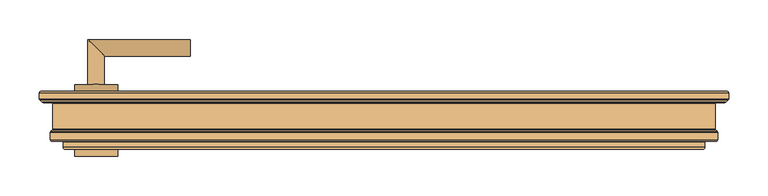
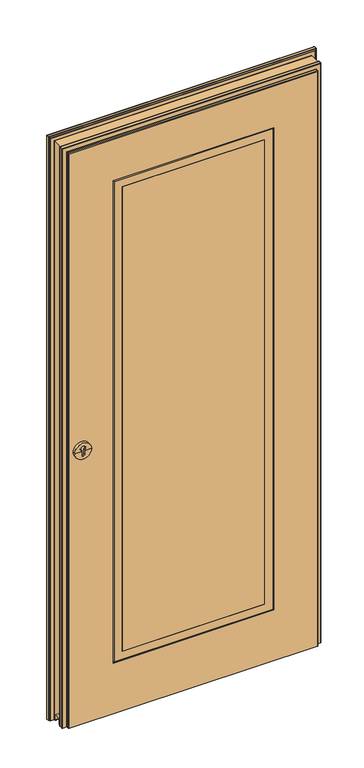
"""IFC4 building model written with IfcOpenShell, lengths in millimetres: door geometry, Peneder_HIGHLINEflat zero_1-flügelig_V2019 : Zargentyp - 01 - Eck 60 DN."""

from ifc_helpers import new_model, si_unit, frame, origin, place, context, project, spatial, polyline, circle_curve, ellipse_curve, outline, extrude, faceted_brep, source, transform, mapped, element, save
from ifc_brep_helpers import plane_surface, cylinder_surface, revolved_surface, advanced_brep


def door_6e8d6682(model_context):
    return source(origin(), model_context, "Body", "SolidModel", [
        advanced_brep(
        [(-337.5, 56.0, 958.0), (-392.5, 56.0, 958.0), (-392.5, 65.0, 958.0), (-337.5, 65.0, 958.0), (-360.0, 56.0, 958.0), (-360.0, 56.0, 945.8645067), (-370.0, 56.0, 945.8645067), (-370.0, 56.0, 958.0), (-370.0, 56.0, 960.8645067), (-360.0, 56.0, 960.8645067), (-365.0, 65.0, 958.0), (-370.0, 62.0, 945.8645067), (-360.0, 62.0, 945.8645067), (-360.0, 62.0, 960.8645067), (-370.0, 62.0, 960.8645067)],
        [
            (0, 1, circle_curve(frame((-365.0, 56.0, 958.0), z_axis=(0.0, 1.0, 0.0), x_axis=(-1.0, 0.0, 0.0)), 27.5)),
            (1, 2),
            (2, 3, circle_curve(frame((-365.0, 65.0, 958.0), z_axis=(0.0, -1.0, 0.0), x_axis=(-1.0, 0.0, 0.0)), 27.5)),
            (3, 0),
            (1, 0, circle_curve(frame((-365.0, 56.0, 958.0), z_axis=(0.0, 1.0, 0.0), x_axis=(-1.0, 0.0, 0.0)), 27.5)),
            (3, 2, circle_curve(frame((-365.0, 65.0, 958.0), z_axis=(0.0, -1.0, 0.0), x_axis=(-1.0, 0.0, 0.0)), 27.5)),
            (0, 4),
            (4, 5),
            (5, 6, circle_curve(frame((-365.0, 56.0, 945.8645067), z_axis=(0.0, 1.0, 0.0), x_axis=(-1.0, 0.0, 0.0)), 5.0)),
            (6, 7),
            (7, 1),
            (7, 8),
            (8, 9, circle_curve(frame((-365.0, 56.0, 967.690169), z_axis=(0.0, 1.0, 0.0), x_axis=(-1.0, 0.0, 0.0)), 8.4610677)),
            (9, 4),
            (2, 10),
            (10, 3),
            (11, 12, circle_curve(frame((-365.0, 62.0, 945.8645067), z_axis=(0.0, -1.0, 0.0), x_axis=(-1.0, 0.0, 0.0)), 5.0)),
            (12, 13),
            (13, 14, circle_curve(frame((-365.0, 62.0, 967.690169), z_axis=(0.0, -1.0, 0.0), x_axis=(-1.0, 0.0, 0.0)), 8.4610677)),
            (14, 11),
            (11, 6),
            (5, 12),
            (9, 13),
            (8, 14),
        ],
        [
            cylinder_surface(frame((-365.0, 72.1832023, 958.0), z_axis=(0.0, -1.0, 0.0), x_axis=(-1.0, 0.0, 0.0)), 27.5),
            plane_surface(frame((-365.0, 56.0, 958.0), z_axis=(0.0, -1.0, 0.0), x_axis=(-1.0, 0.0, 0.0))),
            plane_surface(frame((-365.0, 65.0, 958.0), z_axis=(0.0, 1.0, 0.0), x_axis=(-1.0, 0.0, 0.0))),
            plane_surface(frame((-370.0, 62.0, 960.8645067), z_axis=(0.0, -1.0, 0.0), x_axis=(0.0, 0.0, 1.0))),
            revolved_surface(polyline([(-370.0, 62.0, 945.8645067), (-370.0, 56.0, 945.8645067)]), (-365.0, 52.0, 945.8645067), (0.0, 1.0, 0.0)),
            plane_surface(frame((-360.0, 62.0, 960.8645067), z_axis=(-1.0, 0.0, 0.0), x_axis=(0.0, -1.0, 0.0))),
            revolved_surface(polyline([(-373.4610677, 62.0, 967.690169), (-373.4610677, 56.0, 967.690169)]), (-365.0, 52.0, 967.690169), (0.0, 1.0, 0.0)),
            plane_surface(frame((-370.0, 62.0, 945.8645067), z_axis=(1.0, 0.0, 0.0), x_axis=(0.0, -1.0, 0.0))),
        ],
        [
            (0, [[1, 2, 3, 4]]),
            (0, [[-2, 5, -4, 6]]),
            (1, [[-1, 7, 8, 9, 10, 11]]),
            (1, [[-5, -11, 12, 13, 14, -7]]),
            (2, [[-3, 15, 16]]),
            (2, [[-6, -16, -15]]),
            (3, [[17, 18, 19, 20]]),
            (4, [[-17, 21, -9, 22]]),
            (5, [[-18, -22, -8, -14, 23]]),
            (6, [[-19, -23, -13, 24]]),
            (7, [[-20, -24, -12, -10, -21]]),
        ],
    ),
        advanced_brep(
        [(-375.5, 147.0, 1050.0), (-354.5, 147.0, 1050.0), (-354.5, 183.0, 1050.0), (-375.5, 204.0, 1050.0), (-245.5, 183.0, 1050.0), (-245.5, 204.0, 1050.0)],
        [
            (0, 1, circle_curve(frame((-365.0, 147.0, 1050.0), z_axis=(0.0, -1.0, 0.0), x_axis=(1.0, 0.0, 0.0)), 10.5)),
            (1, 0, circle_curve(frame((-365.0, 147.0, 1050.0), z_axis=(0.0, -1.0, 0.0), x_axis=(1.0, 0.0, 0.0)), 10.5)),
            (1, 2),
            (2, 3, ellipse_curve(frame((-365.0, 193.5, 1050.0), z_axis=(-0.7071067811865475, -0.7071067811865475, 0.0), x_axis=(0.7071067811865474, -0.7071067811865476, 0.0)), 14.8492424, 10.5)),
            (3, 0),
            (3, 2, ellipse_curve(frame((-365.0, 193.5, 1050.0), z_axis=(-0.7071067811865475, -0.7071067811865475, 0.0), x_axis=(0.7071067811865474, -0.7071067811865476, 0.0)), 14.8492424, 10.5)),
            (2, 4),
            (4, 5, circle_curve(frame((-245.5, 193.5, 1050.0), z_axis=(-1.0, 0.0, 0.0), x_axis=(0.0, -1.0, 0.0)), 10.5)),
            (5, 3),
            (5, 4, circle_curve(frame((-245.5, 193.5, 1050.0), z_axis=(-1.0, 0.0, 0.0), x_axis=(0.0, -1.0, 0.0)), 10.5)),
        ],
        [
            plane_surface(frame((-365.0, 147.0, 1050.0), z_axis=(0.0, -1.0, 0.0), x_axis=(0.0, 0.0, 1.0))),
            cylinder_surface(frame((-365.0, 147.0, 1050.0), z_axis=(0.0, -1.0, 0.0), x_axis=(1.0, 0.0, 0.0)), 10.5),
            cylinder_surface(frame((-365.0, 193.5, 1050.0), z_axis=(-1.0, 0.0, 0.0), x_axis=(0.0, -1.0, 0.0)), 10.5),
            plane_surface(frame((-245.5, 193.5, 1050.0), z_axis=(1.0, 0.0, 0.0), x_axis=(0.0, 0.0, 1.0))),
        ],
        [
            (0, [[1, 2]]),
            (1, [[3, 4, 5, -2]]),
            (1, [[-5, 6, -3, -1]]),
            (2, [[7, 8, 9, -4]]),
            (2, [[-9, 10, -7, -6]]),
            (3, [[-8, -10]]),
        ],
    ),
        advanced_brep(
        [(-337.5, 147.0, 1050.0), (-337.5, 138.0, 1050.0), (-392.5, 138.0, 1050.0), (-392.5, 147.0, 1050.0), (-365.0, 147.0, 1050.0), (-365.0, 138.0, 1050.0)],
        [
            (0, 1),
            (1, 2, circle_curve(frame((-365.0, 138.0, 1050.0), z_axis=(0.0, 1.0, 0.0), x_axis=(-1.0, 0.0, 0.0)), 27.5)),
            (2, 3),
            (3, 0, circle_curve(frame((-365.0, 147.0, 1050.0), z_axis=(0.0, -1.0, 0.0), x_axis=(-1.0, 0.0, 0.0)), 27.5)),
            (2, 1, circle_curve(frame((-365.0, 138.0, 1050.0), z_axis=(0.0, 1.0, 0.0), x_axis=(-1.0, 0.0, 0.0)), 27.5)),
            (0, 3, circle_curve(frame((-365.0, 147.0, 1050.0), z_axis=(0.0, -1.0, 0.0), x_axis=(-1.0, 0.0, 0.0)), 27.5)),
            (4, 0),
            (3, 4),
            (1, 5),
            (5, 2),
        ],
        [
            cylinder_surface(frame((-365.0, 120.2392865, 1050.0), z_axis=(0.0, 1.0, 0.0), x_axis=(-1.0, 0.0, 0.0)), 27.5),
            plane_surface(frame((-365.0, 147.0, 1050.0), z_axis=(0.0, 1.0, 0.0), x_axis=(-1.0, 0.0, 0.0))),
            plane_surface(frame((-365.0, 138.0, 1050.0), z_axis=(0.0, -1.0, 0.0), x_axis=(-1.0, 0.0, 0.0))),
        ],
        [
            (0, [[1, 2, 3, 4]]),
            (0, [[-3, 5, -1, 6]]),
            (1, [[7, -4, 8]]),
            (1, [[-8, -6, -7]]),
            (2, [[9, 10, -2]]),
            (2, [[-10, -9, -5]]),
        ],
    ),
        advanced_brep(
        [(-337.5, 147.0, 958.0), (-337.5, 138.0, 958.0), (-392.5, 138.0, 958.0), (-392.5, 147.0, 958.0), (-370.0, 147.0, 958.0), (-370.0, 147.0, 945.8645067), (-360.0, 147.0, 945.8645067), (-360.0, 147.0, 958.0), (-360.0, 147.0, 960.8645067), (-370.0, 147.0, 960.8645067), (-365.0, 138.0, 958.0), (-370.0, 141.0, 945.8645067), (-370.0, 141.0, 960.8645067), (-360.0, 141.0, 960.8645067), (-360.0, 141.0, 945.8645067)],
        [
            (0, 1),
            (1, 2, circle_curve(frame((-365.0, 138.0, 958.0), z_axis=(0.0, 1.0, 0.0), x_axis=(-1.0, 0.0, 0.0)), 27.5)),
            (2, 3),
            (3, 0, circle_curve(frame((-365.0, 147.0, 958.0), z_axis=(0.0, -1.0, 0.0), x_axis=(-1.0, 0.0, 0.0)), 27.5)),
            (2, 1, circle_curve(frame((-365.0, 138.0, 958.0), z_axis=(0.0, 1.0, 0.0), x_axis=(-1.0, 0.0, 0.0)), 27.5)),
            (0, 3, circle_curve(frame((-365.0, 147.0, 958.0), z_axis=(0.0, -1.0, 0.0), x_axis=(-1.0, 0.0, 0.0)), 27.5)),
            (3, 4),
            (4, 5),
            (5, 6, circle_curve(frame((-365.0, 147.0, 945.8645067), z_axis=(0.0, -1.0, 0.0), x_axis=(-1.0, 0.0, 0.0)), 5.0)),
            (6, 7),
            (7, 0),
            (7, 8),
            (8, 9, circle_curve(frame((-365.0, 147.0, 967.690169), z_axis=(0.0, -1.0, 0.0), x_axis=(-1.0, 0.0, 0.0)), 8.4610677)),
            (9, 4),
            (1, 10),
            (10, 2),
            (11, 12),
            (12, 13, circle_curve(frame((-365.0, 141.0, 967.690169), z_axis=(0.0, 1.0, 0.0), x_axis=(-1.0, 0.0, 0.0)), 8.4610677)),
            (13, 14),
            (14, 11, circle_curve(frame((-365.0, 141.0, 945.8645067), z_axis=(0.0, 1.0, 0.0), x_axis=(-1.0, 0.0, 0.0)), 5.0)),
            (14, 6),
            (5, 11),
            (13, 8),
            (12, 9),
        ],
        [
            cylinder_surface(frame((-365.0, 130.8167977, 958.0), z_axis=(0.0, 1.0, 0.0), x_axis=(-1.0, 0.0, 0.0)), 27.5),
            plane_surface(frame((-365.0, 147.0, 958.0), z_axis=(0.0, 1.0, 0.0), x_axis=(-1.0, 0.0, 0.0))),
            plane_surface(frame((-365.0, 138.0, 958.0), z_axis=(0.0, -1.0, 0.0), x_axis=(-1.0, 0.0, 0.0))),
            plane_surface(frame((-370.0, 141.0, 960.8645067), z_axis=(0.0, 1.0, 0.0), x_axis=(0.0, 0.0, 1.0))),
            revolved_surface(polyline([(-370.0, 141.0, 945.8645067), (-370.0, 147.0, 945.8645067)]), (-365.0, 151.0, 945.8645067), (0.0, -1.0, 0.0)),
            plane_surface(frame((-360.0, 141.0, 960.8645067), z_axis=(-1.0, 0.0, 0.0), x_axis=(0.0, 1.0, 0.0))),
            revolved_surface(polyline([(-373.4610677, 141.0, 967.690169), (-373.4610677, 147.0, 967.690169)]), (-365.0, 151.0, 967.690169), (0.0, -1.0, 0.0)),
            plane_surface(frame((-370.0, 141.0, 945.8645067), z_axis=(1.0, 0.0, 0.0), x_axis=(0.0, 1.0, 0.0))),
        ],
        [
            (0, [[1, 2, 3, 4]]),
            (0, [[5, -1, 6, -3]]),
            (1, [[7, 8, 9, 10, 11, -4]]),
            (1, [[-11, 12, 13, 14, -7, -6]]),
            (2, [[15, 16, -2]]),
            (2, [[-16, -15, -5]]),
            (3, [[17, 18, 19, 20]]),
            (4, [[21, -9, 22, -20]]),
            (5, [[23, -12, -10, -21, -19]]),
            (6, [[24, -13, -23, -18]]),
            (7, [[-22, -8, -14, -24, -17]]),
        ],
    ),
        faceted_brep([(232.0, 65.0, 215.0), (232.0, 138.0, 215.0), (-232.0, 138.0, 215.0), (-232.0, 65.0, 215.0), (-232.0, 138.0, 1819.0), (-232.0, 65.0, 1819.0), (-259.0, 138.0, 1846.0), (259.0, 138.0, 1846.0), (259.0, 138.0, 188.0), (-259.0, 138.0, 188.0), (232.0, 138.0, 1819.0), (-259.0, 65.0, 188.0), (259.0, 65.0, 188.0), (259.0, 65.0, 1846.0), (-259.0, 65.0, 1846.0), (232.0, 65.0, 1819.0), (259.0, 68.0, 188.0), (-259.0, 68.0, 188.0), (-259.0, 68.0, 1846.0), (-262.0, 68.0, 185.0), (262.0, 68.0, 185.0), (262.0, 68.0, 1849.0), (-262.0, 68.0, 1849.0), (259.0, 68.0, 1846.0), (262.0, 135.0, 185.0), (-262.0, 135.0, 185.0), (-262.0, 135.0, 1849.0), (262.0, 135.0, 1849.0), (-259.0, 135.0, 188.0), (259.0, 135.0, 188.0), (259.0, 135.0, 1846.0), (-259.0, 135.0, 1846.0)], [[[0, 1, 2, 3]], [[3, 2, 4, 5]], [[6, 7, 8, 9], [2, 1, 10, 4]], [[11, 12, 13, 14], [5, 15, 0, 3]], [[16, 12, 11, 17]], [[17, 11, 14, 18]], [[19, 20, 21, 22], [18, 23, 16, 17]], [[24, 20, 19, 25]], [[25, 19, 22, 26]], [[26, 27, 24, 25], [28, 29, 30, 31]], [[8, 29, 28, 9]], [[9, 28, 31, 6]], [[15, 10, 1, 0]], [[23, 13, 12, 16]], [[27, 21, 20, 24]], [[7, 30, 29, 8]], [[5, 4, 10, 15]], [[18, 14, 13, 23]], [[26, 22, 21, 27]], [[6, 31, 30, 7]]]),
        extrude(outline(polyline([(232.0, 65.0), (-232.0, 65.0), (-232.0, 138.0), (232.0, 138.0), (232.0, 65.0)])), frame((0.0, 0.0, 215.0), z_axis=(0.0, 0.0, 1.0), x_axis=(1.0, 0.0, 0.0)), (0.0, 0.0, 1.0), 1604.0),
        advanced_brep(
        [(405.0, 65.0, 10.0), (-405.0, 65.0, 10.0), (-407.0, 67.0, 10.0), (-407.0, 74.0, 10.0), (-408.0, 75.0, 10.0), (-421.0, 75.0, 10.0), (-423.0, 77.0, 10.0), (-423.0, 86.1715729, 10.0), (-422.4142136, 87.5857864, 10.0), (-420.2928932, 89.7071068, 10.0), (-420.0, 90.4142136, 10.0), (-420.0, 94.5, 10.0), (420.0, 94.5, 10.0), (420.0, 90.4142136, 10.0), (420.2928932, 89.7071068, 10.0), (422.4142136, 87.5857864, 10.0), (423.0, 86.1715729, 10.0), (423.0, 77.0, 10.0), (421.0, 75.0, 10.0), (408.0, 75.0, 10.0), (407.0, 74.0, 10.0), (407.0, 67.0, 10.0), (-437.0, 128.8284271, 10.0), (-437.0, 136.0, 10.0), (-435.0, 138.0, 10.0), (435.0, 138.0, 10.0), (437.0, 136.0, 10.0), (437.0, 128.8284271, 10.0), (436.4142136, 127.4142136, 10.0), (433.5857864, 124.5857864, 10.0), (432.1715729, 124.0, 10.0), (421.0, 124.0, 10.0), (420.0, 123.0, 10.0), (420.0, 119.5, 10.0), (-420.0, 119.5, 10.0), (-420.0, 123.0, 10.0), (-421.0, 124.0, 10.0), (-432.1715729, 124.0, 10.0), (-433.5857864, 124.5857864, 10.0), (-436.4142136, 127.4142136, 10.0), (405.0, 65.0, 1992.0), (-405.0, 65.0, 1992.0), (-262.0, 65.0, 1849.0), (262.0, 65.0, 1849.0), (262.0, 65.0, 185.0), (-262.0, 65.0, 185.0), (-407.0, 67.0, 1994.0), (-407.0, 74.0, 1994.0), (-408.0, 75.0, 1995.0), (408.0, 75.0, 1995.0), (421.0, 75.0, 2008.0), (-421.0, 75.0, 2008.0), (-423.0, 77.0, 2010.0), (-423.0, 86.1715729, 2010.0), (-422.4142136, 87.5857864, 2009.4142136), (-420.2928932, 89.7071068, 2007.2928932), (-420.0, 90.4142136, 2007.0), (-420.0, 123.0, 2007.0), (-420.0, 117.5, 12.0), (-420.0, 117.5, 29.5), (-420.0, 116.5, 30.5), (-420.0, 97.5, 30.5), (-420.0, 96.5, 29.5), (-420.0, 96.5, 12.0), (420.0, 96.5, 12.0), (420.0, 123.0, 2007.0), (420.0, 90.4142136, 2007.0), (420.0, 96.5, 29.5), (420.0, 97.5, 30.5), (420.0, 116.5, 30.5), (420.0, 117.5, 29.5), (420.0, 117.5, 12.0), (420.2928932, 89.7071068, 2007.2928932), (422.4142136, 87.5857864, 2009.4142136), (423.0, 86.1715729, 2010.0), (423.0, 77.0, 2010.0), (407.0, 74.0, 1994.0), (407.0, 67.0, 1994.0), (-437.0, 128.8284271, 2024.0), (-437.0, 136.0, 2024.0), (-435.0, 138.0, 2022.0), (435.0, 138.0, 2022.0), (262.0, 138.0, 1849.0), (-262.0, 138.0, 1849.0), (-262.0, 138.0, 185.0), (262.0, 138.0, 185.0), (437.0, 136.0, 2024.0), (437.0, 128.8284271, 2024.0), (436.4142136, 127.4142136, 2023.4142136), (433.5857864, 124.5857864, 2020.5857864), (432.1715729, 124.0, 2019.1715729), (-421.0, 124.0, 2008.0), (421.0, 124.0, 2008.0), (-432.1715729, 124.0, 2019.1715729), (-433.5857864, 124.5857864, 2020.5857864), (-436.4142136, 127.4142136, 2023.4142136)],
        [
            (0, 1),
            (1, 2, circle_curve(frame((-405.0, 67.0, 10.0), z_axis=(0.0, 0.0, -1.0), x_axis=(0.0, -1.0, 0.0)), 2.0)),
            (2, 3),
            (3, 4, circle_curve(frame((-408.0, 74.0, 10.0), z_axis=(0.0, 0.0, 1.0), x_axis=(1.0, 0.0, 0.0)), 1.0)),
            (4, 5),
            (5, 6, circle_curve(frame((-421.0, 77.0, 10.0), z_axis=(0.0, 0.0, -1.0), x_axis=(0.0, -1.0, 0.0)), 2.0)),
            (6, 7),
            (7, 8, circle_curve(frame((-421.0, 86.1715729, 10.0), z_axis=(0.0, 0.0, -1.0), x_axis=(-1.0, 0.0, 0.0)), 2.0)),
            (8, 9),
            (9, 10, circle_curve(frame((-421.0, 90.4142136, 10.0), z_axis=(0.0, 0.0, 1.0), x_axis=(0.7071067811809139, -0.7071067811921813, 0.0)), 1.0)),
            (10, 11),
            (11, 12),
            (12, 13),
            (13, 14, circle_curve(frame((421.0, 90.4142136, 10.0), z_axis=(0.0, 0.0, 1.0), x_axis=(-0.707106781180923, -0.7071067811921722, 0.0)), 1.0)),
            (14, 15),
            (15, 16, circle_curve(frame((421.0, 86.1715729, 10.0), z_axis=(0.0, 0.0, -1.0), x_axis=(1.0, 0.0, 0.0)), 2.0)),
            (16, 17),
            (17, 18, circle_curve(frame((421.0, 77.0, 10.0), z_axis=(0.0, 0.0, -1.0), x_axis=(0.0, -1.0, 0.0)), 2.0)),
            (18, 19),
            (19, 20, circle_curve(frame((408.0, 74.0, 10.0), z_axis=(0.0, 0.0, 1.0), x_axis=(-1.0, 0.0, 0.0)), 1.0)),
            (20, 21),
            (21, 0, circle_curve(frame((405.0, 67.0, 10.0), z_axis=(0.0, 0.0, -1.0), x_axis=(0.0, -1.0, 0.0)), 2.0)),
            (22, 23),
            (23, 24, circle_curve(frame((-435.0, 136.0, 10.0), z_axis=(0.0, 0.0, -1.0), x_axis=(-1.0, 0.0, 0.0)), 2.0)),
            (24, 25),
            (25, 26, circle_curve(frame((435.0, 136.0, 10.0), z_axis=(0.0, 0.0, -1.0), x_axis=(1.0, 0.0, 0.0)), 2.0)),
            (26, 27),
            (27, 28, circle_curve(frame((435.0, 128.8284271, 10.0), z_axis=(0.0, 0.0, -1.0), x_axis=(0.7071067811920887, -0.7071067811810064, 0.0)), 2.0)),
            (28, 29),
            (29, 30, circle_curve(frame((432.1715729, 126.0, 10.0), z_axis=(0.0, 0.0, -1.0), x_axis=(0.0, -1.0, 0.0)), 2.0)),
            (30, 31),
            (31, 32, circle_curve(frame((421.0, 123.0, 10.0), z_axis=(0.0, 0.0, 1.0), x_axis=(-1.0, 0.0, 0.0)), 1.0)),
            (32, 33),
            (33, 34),
            (34, 35),
            (35, 36, circle_curve(frame((-421.0, 123.0, 10.0), z_axis=(0.0, 0.0, 1.0), x_axis=(1.0, 0.0, 0.0)), 1.0)),
            (36, 37),
            (37, 38, circle_curve(frame((-432.1715729, 126.0, 10.0), z_axis=(0.0, 0.0, -1.0), x_axis=(0.0, -1.0, 0.0)), 2.0)),
            (38, 39),
            (39, 22, circle_curve(frame((-435.0, 128.8284271, 10.0), z_axis=(0.0, 0.0, -1.0), x_axis=(-0.7071067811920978, -0.7071067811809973, 0.0)), 2.0)),
            (0, 40),
            (40, 41),
            (41, 1),
            (42, 43),
            (43, 44),
            (44, 45),
            (45, 42),
            (41, 46, ellipse_curve(frame((-405.0, 67.0, 1992.0), z_axis=(-0.7071067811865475, 0.0, -0.7071067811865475), x_axis=(-0.7071067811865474, 0.0, 0.7071067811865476)), 2.8284271, 2.0)),
            (46, 2),
            (46, 47),
            (47, 3),
            (47, 48, ellipse_curve(frame((-408.0, 74.0, 1995.0), z_axis=(0.7071067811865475, 0.0, 0.7071067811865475), x_axis=(0.7071067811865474, 0.0, -0.7071067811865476)), 1.4142136, 1.0)),
            (48, 4),
            (48, 49),
            (49, 19),
            (18, 50),
            (50, 51),
            (51, 5),
            (51, 52, ellipse_curve(frame((-421.0, 77.0, 2008.0), z_axis=(-0.7071067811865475, 0.0, -0.7071067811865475), x_axis=(-0.7071067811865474, 0.0, 0.7071067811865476)), 2.8284271, 2.0)),
            (52, 6),
            (52, 53),
            (53, 7),
            (53, 54, ellipse_curve(frame((-421.0, 86.1715729, 2008.0), z_axis=(-0.7071067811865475, 0.0, -0.7071067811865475), x_axis=(-0.7071067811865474, 0.0, 0.7071067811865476)), 2.8284271, 2.0)),
            (54, 8),
            (54, 55),
            (55, 9),
            (55, 56, ellipse_curve(frame((-421.0, 90.4142136, 2008.0), z_axis=(0.7071067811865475, 0.0, 0.7071067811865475), x_axis=(0.7071067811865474, 0.0, -0.7071067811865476)), 1.4142136, 1.0)),
            (56, 10),
            (56, 57),
            (57, 35),
            (34, 58, circle_curve(frame((-420.0, 119.5, 12.0), z_axis=(-1.0, 0.0, 0.0), x_axis=(0.0, 1.0, 0.0)), 2.0)),
            (58, 59),
            (59, 60, circle_curve(frame((-420.0, 116.5, 29.5), z_axis=(1.0, 0.0, 0.0), x_axis=(0.0, 1.0, 0.0)), 1.0)),
            (60, 61),
            (61, 62, circle_curve(frame((-420.0, 97.5, 29.5), z_axis=(1.0, 0.0, 0.0), x_axis=(0.0, 1.0, 0.0)), 1.0)),
            (62, 63),
            (63, 11, circle_curve(frame((-420.0, 94.5, 12.0), z_axis=(-1.0, 0.0, 0.0), x_axis=(0.0, 1.0, 0.0)), 2.0)),
            (63, 64),
            (64, 12, circle_curve(frame((420.0, 94.5, 12.0), z_axis=(-1.0, 0.0, 0.0), x_axis=(0.0, 1.0, 0.0)), 2.0)),
            (65, 66),
            (66, 13),
            (64, 67),
            (67, 68, circle_curve(frame((420.0, 97.5, 29.5), z_axis=(-1.0, 0.0, 0.0), x_axis=(0.0, 1.0, 0.0)), 1.0)),
            (68, 69),
            (69, 70, circle_curve(frame((420.0, 116.5, 29.5), z_axis=(-1.0, 0.0, 0.0), x_axis=(0.0, 1.0, 0.0)), 1.0)),
            (70, 71),
            (71, 33, circle_curve(frame((420.0, 119.5, 12.0), z_axis=(1.0, 0.0, 0.0), x_axis=(0.0, 1.0, 0.0)), 2.0)),
            (32, 65),
            (66, 72, ellipse_curve(frame((421.0, 90.4142136, 2008.0), z_axis=(-0.7071067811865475, 0.0, 0.7071067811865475), x_axis=(0.7071067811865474, 0.0, 0.7071067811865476)), 1.4142136, 1.0)),
            (72, 14),
            (72, 73),
            (73, 15),
            (73, 74, ellipse_curve(frame((421.0, 86.1715729, 2008.0), z_axis=(0.7071067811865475, 0.0, -0.7071067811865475), x_axis=(-0.7071067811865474, 0.0, -0.7071067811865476)), 2.8284271, 2.0)),
            (74, 16),
            (74, 75),
            (75, 17),
            (75, 50, ellipse_curve(frame((421.0, 77.0, 2008.0), z_axis=(0.7071067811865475, 0.0, -0.7071067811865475), x_axis=(-0.7071067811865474, 0.0, -0.7071067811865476)), 2.8284271, 2.0)),
            (49, 76, ellipse_curve(frame((408.0, 74.0, 1995.0), z_axis=(-0.7071067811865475, 0.0, 0.7071067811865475), x_axis=(0.7071067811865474, 0.0, 0.7071067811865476)), 1.4142136, 1.0)),
            (76, 20),
            (76, 77),
            (77, 21),
            (77, 40, ellipse_curve(frame((405.0, 67.0, 1992.0), z_axis=(0.7071067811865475, 0.0, -0.7071067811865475), x_axis=(-0.7071067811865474, 0.0, -0.7071067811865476)), 2.8284271, 2.0)),
            (78, 79),
            (79, 23),
            (22, 78),
            (79, 80, ellipse_curve(frame((-435.0, 136.0, 2022.0), z_axis=(-0.7071067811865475, 0.0, -0.7071067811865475), x_axis=(-0.7071067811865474, 0.0, 0.7071067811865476)), 2.8284271, 2.0)),
            (80, 24),
            (80, 81),
            (81, 25),
            (82, 83),
            (83, 84),
            (84, 85),
            (85, 82),
            (81, 86, ellipse_curve(frame((435.0, 136.0, 2022.0), z_axis=(0.7071067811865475, 0.0, -0.7071067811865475), x_axis=(-0.7071067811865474, 0.0, -0.7071067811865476)), 2.8284271, 2.0)),
            (86, 26),
            (86, 87),
            (87, 27),
            (87, 88, ellipse_curve(frame((435.0, 128.8284271, 2022.0), z_axis=(0.7071067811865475, 0.0, -0.7071067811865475), x_axis=(-0.7071067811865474, 0.0, -0.7071067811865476)), 2.8284271, 2.0)),
            (88, 28),
            (88, 89),
            (89, 29),
            (89, 90, ellipse_curve(frame((432.1715729, 126.0, 2019.1715729), z_axis=(0.7071067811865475, 0.0, -0.7071067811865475), x_axis=(-0.7071067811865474, 0.0, -0.7071067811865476)), 2.8284271, 2.0)),
            (90, 30),
            (91, 92),
            (92, 31),
            (90, 93),
            (93, 37),
            (36, 91),
            (92, 65, ellipse_curve(frame((421.0, 123.0, 2008.0), z_axis=(-0.7071067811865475, 0.0, 0.7071067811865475), x_axis=(0.7071067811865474, 0.0, 0.7071067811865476)), 1.4142136, 1.0)),
            (71, 58),
            (57, 91, ellipse_curve(frame((-421.0, 123.0, 2008.0), z_axis=(0.7071067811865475, 0.0, 0.7071067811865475), x_axis=(0.7071067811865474, 0.0, -0.7071067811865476)), 1.4142136, 1.0)),
            (93, 94, ellipse_curve(frame((-432.1715729, 126.0, 2019.1715729), z_axis=(-0.7071067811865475, 0.0, -0.7071067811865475), x_axis=(-0.7071067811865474, 0.0, 0.7071067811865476)), 2.8284271, 2.0)),
            (94, 38),
            (94, 95),
            (95, 39),
            (95, 78, ellipse_curve(frame((-435.0, 128.8284271, 2022.0), z_axis=(-0.7071067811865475, 0.0, -0.7071067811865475), x_axis=(-0.7071067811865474, 0.0, 0.7071067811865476)), 2.8284271, 2.0)),
            (70, 59),
            (69, 60),
            (68, 61),
            (67, 62),
            (86, 79),
            (78, 87),
            (77, 46),
            (95, 88),
            (94, 89),
            (57, 65),
            (56, 66),
            (55, 72),
            (54, 73),
            (53, 74),
            (52, 75),
            (47, 76),
            (43, 82),
            (85, 44),
            (84, 45),
            (83, 42),
        ],
        [
            plane_surface(frame((437.0, 65.0, 10.0), z_axis=(0.0, 0.0, -1.0), x_axis=(-1.0, 0.0, 0.0))),
            plane_surface(frame((-437.0, 65.0, 2024.0), z_axis=(0.0, -1.0, 0.0), x_axis=(0.0, 0.0, -1.0))),
            cylinder_surface(frame((-405.0, 67.0, 0.0), z_axis=(0.0, 0.0, 1.0), x_axis=(0.0, -1.0, 0.0)), 2.0),
            plane_surface(frame((-407.0, 74.0, 0.0), z_axis=(-1.0, 0.0, 0.0), x_axis=(0.0, 0.0, 1.0))),
            revolved_surface(polyline([(-407.0, 74.0, 10.0), (-407.0, 74.0, 1996.0000000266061)]), (-408.0, 74.0, 0.0), (0.0, 0.0, -1.0)),
            plane_surface(frame((-421.0, 75.0, 0.0), z_axis=(0.0, -1.0, 0.0), x_axis=(0.0, 0.0, 1.0))),
            cylinder_surface(frame((-421.0, 77.0, 0.0), z_axis=(0.0, 0.0, 1.0), x_axis=(0.0, -1.0, 0.0)), 2.0),
            plane_surface(frame((-423.0, 86.1715729, 0.0), z_axis=(-1.0, 0.0, 0.0), x_axis=(0.0, 0.0, 1.0))),
            cylinder_surface(frame((-421.0, 86.1715729, 0.0), z_axis=(0.0, 0.0, 1.0), x_axis=(-1.0, 0.0, 0.0)), 2.0),
            plane_surface(frame((-420.2928932, 89.7071068, 0.0), z_axis=(-0.7071067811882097, 0.7071067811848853, 0.0), x_axis=(0.0, 0.0, 1.0))),
            revolved_surface(polyline([(-420.2928932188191, 89.70710681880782, 10.0), (-420.2928932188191, 89.70710681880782, 2009.0000000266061)]), (-421.0, 90.4142136, 0.0), (0.0, 0.0, -1.0)),
            plane_surface(frame((-420.0, 123.0, 0.0), z_axis=(-1.0, 0.0, 0.0), x_axis=(0.0, 0.0, 1.0))),
            cylinder_surface(frame((437.0, 94.5, 12.0), z_axis=(-1.0, 0.0, 0.0), x_axis=(0.0, 1.0, 0.0)), 2.0),
            plane_surface(frame((420.0, 123.0, 2007.0), z_axis=(1.0, 0.0, 0.0), x_axis=(0.0, 0.0, -1.0))),
            revolved_surface(polyline([(420.2928932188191, 89.70710681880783, 2009.0000000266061), (420.2928932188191, 89.70710681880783, 9.99999999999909)]), (421.0, 90.4142136, 2024.0), (0.0, 0.0, 1.0000000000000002)),
            plane_surface(frame((420.2928932, 89.7071068, 2007.2928932), z_axis=(0.7071067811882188, 0.7071067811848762, 0.0), x_axis=(0.0, 0.0, -1.0))),
            cylinder_surface(frame((421.0, 86.1715729, 2024.0), z_axis=(0.0, 0.0, -1.0), x_axis=(1.0, 0.0, 0.0)), 2.0),
            plane_surface(frame((423.0, 86.1715729, 2010.0), z_axis=(1.0, 0.0, 0.0), x_axis=(0.0, 0.0, -1.0))),
            cylinder_surface(frame((421.0, 77.0, 2024.0), z_axis=(0.0, 0.0, -1.0), x_axis=(0.0, -1.0, 0.0)), 2.0),
            revolved_surface(polyline([(407.0, 74.0, 1996.0000000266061), (407.0, 74.0, 10.0)]), (408.0, 74.0, 2024.0), (0.0, 0.0, 1.0)),
            plane_surface(frame((407.0, 74.0, 1994.0), z_axis=(1.0, 0.0, 0.0), x_axis=(0.0, 0.0, -1.0))),
            cylinder_surface(frame((405.0, 67.0, 2024.0), z_axis=(0.0, 0.0, -1.0), x_axis=(0.0, -1.0, 0.0)), 2.0),
            plane_surface(frame((-437.0, 138.0, 2024.0), z_axis=(-1.0, 0.0, 0.0), x_axis=(0.0, 0.0, -1.0))),
            cylinder_surface(frame((-435.0, 136.0, 0.0), z_axis=(0.0, 0.0, 1.0), x_axis=(-1.0, 0.0, 0.0)), 2.0),
            plane_surface(frame((437.0, 138.0, 2024.0), z_axis=(0.0, 1.0, 0.0), x_axis=(0.0, 0.0, -1.0))),
            cylinder_surface(frame((435.0, 136.0, 2024.0), z_axis=(0.0, 0.0, -1.0), x_axis=(1.0, 0.0, 0.0)), 2.0),
            plane_surface(frame((437.0, 65.0, 2024.0), z_axis=(1.0, 0.0, 0.0), x_axis=(0.0, 0.0, -1.0))),
            cylinder_surface(frame((435.0, 128.8284271, 2024.0), z_axis=(0.0, 0.0, -1.0), x_axis=(0.7071067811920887, -0.7071067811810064, 0.0)), 2.0),
            plane_surface(frame((436.4142136, 127.4142136, 2023.4142136), z_axis=(0.7071067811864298, -0.7071067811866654, 0.0), x_axis=(0.0, 0.0, -1.0))),
            cylinder_surface(frame((432.1715729, 126.0, 2024.0), z_axis=(0.0, 0.0, -1.0), x_axis=(0.0, -1.0, 0.0)), 2.0),
            plane_surface(frame((-432.1715729, 124.0, 0.0), z_axis=(0.0, -1.0, 0.0), x_axis=(0.0, 0.0, 1.0))),
            revolved_surface(polyline([(420.0, 123.0, 2009.0000000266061), (420.0, 123.0, 10.0)]), (421.0, 123.0, 2024.0), (0.0, 0.0, 1.0)),
            cylinder_surface(frame((437.0, 119.5, 12.0), z_axis=(-1.0, 0.0, 0.0), x_axis=(0.0, 1.0, 0.0)), 2.0),
            revolved_surface(polyline([(-420.0, 123.0, 10.0), (-420.0, 123.0, 2009.0000000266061)]), (-421.0, 123.0, 0.0), (0.0, 0.0, -1.0)),
            cylinder_surface(frame((-432.1715729, 126.0, 0.0), z_axis=(0.0, 0.0, 1.0), x_axis=(0.0, -1.0, 0.0)), 2.0),
            plane_surface(frame((-436.4142136, 127.4142136, 0.0), z_axis=(-0.7071067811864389, -0.7071067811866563, 0.0), x_axis=(0.0, 0.0, 1.0))),
            cylinder_surface(frame((-435.0, 128.8284271, 0.0), z_axis=(0.0, 0.0, 1.0000000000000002), x_axis=(-0.7071067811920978, -0.7071067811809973, 0.0)), 2.0),
            plane_surface(frame((437.0, 117.5, 12.0), z_axis=(0.0, -1.0, 0.0), x_axis=(-1.0, 0.0, 0.0))),
            revolved_surface(polyline([(420.0, 117.5, 29.5), (-420.0, 117.5, 29.5)]), (437.0, 116.5, 29.5), (1.0, 0.0, 0.0)),
            plane_surface(frame((437.0, 116.5, 30.5), z_axis=(0.0, 0.0, -1.0), x_axis=(-1.0, 0.0, 0.0))),
            revolved_surface(polyline([(420.0, 98.5, 29.5), (-420.0, 98.5, 29.5)]), (437.0, 97.5, 29.5), (1.0, 0.0, 0.0)),
            plane_surface(frame((437.0, 96.5, 29.5), z_axis=(0.0, 1.0, 0.0), x_axis=(-1.0, 0.0, 0.0))),
            plane_surface(frame((437.0, 65.0, 2024.0), z_axis=(0.0, 0.0, 1.0), x_axis=(1.0, 0.0, 0.0))),
            cylinder_surface(frame((-437.0, 67.0, 1992.0), z_axis=(1.0, 0.0, 0.0), x_axis=(0.0, -1.0, 0.0)), 2.0),
            cylinder_surface(frame((-437.0, 136.0, 2022.0), z_axis=(1.0, 0.0, 0.0), x_axis=(0.0, 0.0, 1.0)), 2.0),
            cylinder_surface(frame((-437.0, 128.8284271, 2022.0), z_axis=(1.0, 0.0, 0.0), x_axis=(0.0, -0.7071067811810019, 0.7071067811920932)), 2.0),
            plane_surface(frame((-436.4142136, 127.4142136, 2023.4142136), z_axis=(0.0, -0.7071067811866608, 0.7071067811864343), x_axis=(1.0, 0.0, 0.0))),
            cylinder_surface(frame((-437.0, 126.0, 2019.1715729), z_axis=(1.0, 0.0, 0.0), x_axis=(0.0, -1.0, 0.0)), 2.0),
            revolved_surface(polyline([(-422.00000002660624, 123.0, 2007.0), (422.00000002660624, 123.0, 2007.0)]), (-437.0, 123.0, 2008.0), (-1.0, 0.0, 0.0)),
            plane_surface(frame((-420.0, 123.0, 2007.0), z_axis=(0.0, 0.0, 1.0), x_axis=(1.0, 0.0, 0.0))),
            revolved_surface(polyline([(-422.00000002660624, 89.70710681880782, 2007.292893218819), (422.00000002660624, 89.70710681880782, 2007.292893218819)]), (-437.0, 90.4142136, 2008.0), (-1.0, 0.0, 0.0)),
            plane_surface(frame((-420.2928932, 89.7071068, 2007.2928932), z_axis=(0.0, 0.7071067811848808, 0.7071067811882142), x_axis=(1.0, 0.0, 0.0))),
            cylinder_surface(frame((-437.0, 86.1715729, 2008.0), z_axis=(1.0, 0.0, 0.0), x_axis=(0.0, 0.0, 1.0)), 2.0),
            plane_surface(frame((-423.0, 86.1715729, 2010.0), z_axis=(0.0, 0.0, 1.0), x_axis=(1.0, 0.0, 0.0))),
            cylinder_surface(frame((-437.0, 77.0, 2008.0), z_axis=(1.0, 0.0, 0.0), x_axis=(0.0, -1.0, 0.0)), 2.0),
            revolved_surface(polyline([(-409.00000002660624, 74.0, 1994.0), (409.00000002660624, 74.0, 1994.0)]), (-437.0, 74.0, 1995.0), (-1.0, 0.0, 0.0)),
            plane_surface(frame((-407.0, 74.0, 1994.0), z_axis=(0.0, 0.0, 1.0), x_axis=(1.0, 0.0, 0.0))),
            plane_surface(frame((262.0, 60.0, 185.0), z_axis=(-1.0, 0.0, 0.0), x_axis=(0.0, 1.0, 0.0))),
            plane_surface(frame((-262.0, 60.0, 185.0), z_axis=(0.0, 0.0, 1.0), x_axis=(0.0, 1.0, 0.0))),
            plane_surface(frame((-262.0, 60.0, 1849.0), z_axis=(1.0, 0.0, 0.0), x_axis=(0.0, 1.0, 0.0))),
            plane_surface(frame((262.0, 60.0, 1849.0), z_axis=(0.0, 0.0, -1.0), x_axis=(0.0, 1.0, 0.0))),
        ],
        [
            (0, [[1, 2, 3, 4, 5, 6, 7, 8, 9, 10, 11, 12, 13, 14, 15, 16, 17, 18, 19, 20, 21, 22]]),
            (0, [[23, 24, 25, 26, 27, 28, 29, 30, 31, 32, 33, 34, 35, 36, 37, 38, 39, 40]]),
            (1, [[-1, 41, 42, 43], [44, 45, 46, 47]]),
            (2, [[48, 49, -2, -43]]),
            (3, [[50, 51, -3, -49]]),
            (4, [[52, 53, -4, -51]]),
            (5, [[54, 55, -19, 56, 57, 58, -5, -53]]),
            (6, [[59, 60, -6, -58]]),
            (7, [[61, 62, -7, -60]]),
            (8, [[63, 64, -8, -62]]),
            (9, [[65, 66, -9, -64]]),
            (10, [[67, 68, -10, -66]]),
            (11, [[69, 70, -35, 71, 72, 73, 74, 75, 76, 77, -11, -68]]),
            (12, [[78, 79, -12, -77]]),
            (13, [[80, 81, -13, -79, 82, 83, 84, 85, 86, 87, -33, 88]]),
            (14, [[89, 90, -14, -81]]),
            (15, [[91, 92, -15, -90]]),
            (16, [[93, 94, -16, -92]]),
            (17, [[95, 96, -17, -94]]),
            (18, [[97, -56, -18, -96]]),
            (19, [[98, 99, -20, -55]]),
            (20, [[100, 101, -21, -99]]),
            (21, [[102, -41, -22, -101]]),
            (22, [[103, 104, -23, 105]]),
            (23, [[106, 107, -24, -104]]),
            (24, [[-25, -107, 108, 109], [110, 111, 112, 113]]),
            (25, [[114, 115, -26, -109]]),
            (26, [[116, 117, -27, -115]]),
            (27, [[118, 119, -28, -117]]),
            (28, [[120, 121, -29, -119]]),
            (29, [[122, 123, -30, -121]]),
            (30, [[124, 125, -31, -123, 126, 127, -37, 128]]),
            (31, [[129, -88, -32, -125]]),
            (32, [[130, -71, -34, -87]]),
            (33, [[131, -128, -36, -70]]),
            (34, [[132, 133, -38, -127]]),
            (35, [[134, 135, -39, -133]]),
            (36, [[136, -105, -40, -135]]),
            (37, [[137, -72, -130, -86]]),
            (38, [[138, -73, -137, -85]]),
            (39, [[139, -74, -138, -84]]),
            (40, [[140, -75, -139, -83]]),
            (41, [[-78, -76, -140, -82]]),
            (42, [[-116, 141, -103, 142]]),
            (43, [[-48, -42, -102, 143]]),
            (44, [[-106, -141, -114, -108]]),
            (45, [[-136, 144, -118, -142]]),
            (46, [[-134, 145, -120, -144]]),
            (47, [[-132, -126, -122, -145]]),
            (48, [[-124, -131, 146, -129]]),
            (49, [[-69, 147, -80, -146]]),
            (50, [[-67, 148, -89, -147]]),
            (51, [[-65, 149, -91, -148]]),
            (52, [[-63, 150, -93, -149]]),
            (53, [[-61, 151, -95, -150]]),
            (54, [[-59, -57, -97, -151]]),
            (55, [[-54, -52, 152, -98]]),
            (56, [[-50, -143, -100, -152]]),
            (57, [[153, -113, 154, -45]]),
            (58, [[-154, -112, 155, -46]]),
            (59, [[-155, -111, 156, -47]]),
            (60, [[-153, -44, -156, -110]]),
        ],
    ),
    ])


if __name__ == "__main__":
    model = new_model("IFC4")
    model_context = context("Model", 3, world=origin())
    ifc_project = project(units=[si_unit("LENGTHUNIT", "METRE", prefix="MILLI")], contexts=[model_context])
    site = spatial("IfcSite", under=ifc_project)
    building = spatial("IfcBuilding", under=site)
    placement = place(None, origin())
    door_shape = door_6e8d6682(model_context)
    element("IfcDoor", 1, ObjectType="Peneder_HIGHLINEflat zero_1-flügelig_V2019 : Zargentyp - 01 - Eck 60 DN", at=placement, inside=building, context=model_context, shape_type="MappedRepresentation", body=[
        mapped(door_shape, transform((0.0, 0.0, 0.0), x_axis=(1.0, 0.0, 0.0), y_axis=(0.0, 1.0, 0.0), z_axis=(0.0, 0.0, 1.0))),
    ])
    save(model, "model.ifc")
